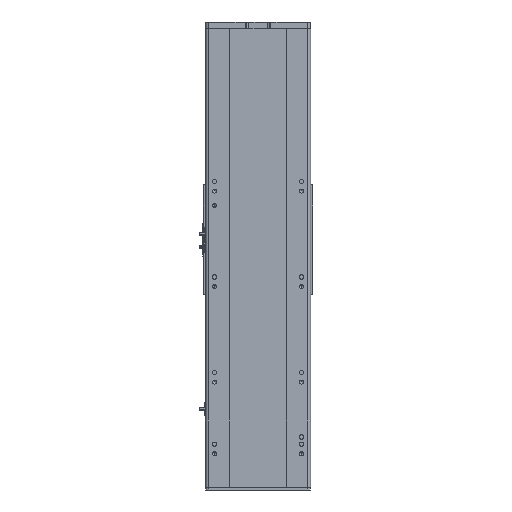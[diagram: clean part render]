
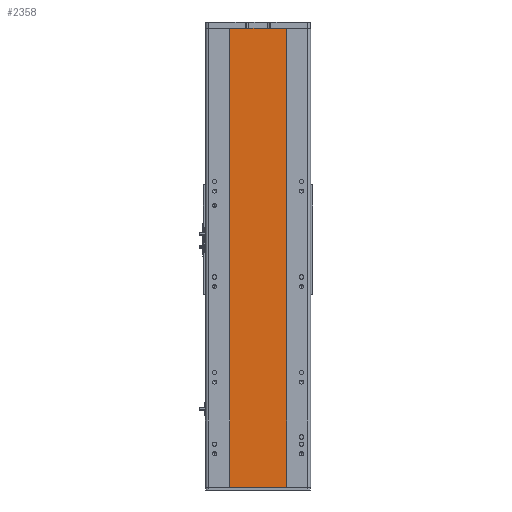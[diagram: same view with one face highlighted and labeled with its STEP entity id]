
A CAD part, front view. The second image highlights one B-rep face of the part: STEP entity #2358.
In plain terms, the highlighted planar face has unit normal (0, -1, 0).
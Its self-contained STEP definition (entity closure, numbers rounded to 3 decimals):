
#647 = CARTESIAN_POINT ( 'NONE',  ( -59., 1., 480.5 ) ) ;
#745 = EDGE_CURVE ( 'NONE', #2993, #4073, #27248, .T. ) ;
#2058 = CARTESIAN_POINT ( 'NONE',  ( -59., 1., 480.5 ) ) ;
#2358 = ADVANCED_FACE ( 'NONE', ( #24037 ), #27081, .F. ) ;
#2993 = VERTEX_POINT ( 'NONE', #9958 ) ;
#4073 = VERTEX_POINT ( 'NONE', #18089 ) ;
#4713 = DIRECTION ( 'NONE',  ( -1., 0., 0. ) ) ;
#4801 = CARTESIAN_POINT ( 'NONE',  ( -59., 1., 480.5 ) ) ;
#4818 = VECTOR ( 'NONE', #16840, 1000. ) ;
#7188 = CARTESIAN_POINT ( 'NONE',  ( -59., 1., 480.5 ) ) ;
#8130 = VECTOR ( 'NONE', #26447, 1000. ) ;
#8135 = CARTESIAN_POINT ( 'NONE',  ( 59., 1., 480.5 ) ) ;
#8503 = DIRECTION ( 'NONE',  ( 0., 0., -1. ) ) ;
#9958 = CARTESIAN_POINT ( 'NONE',  ( -59., 1., -480.5 ) ) ;
#10421 = EDGE_CURVE ( 'NONE', #19320, #30246, #23085, .T. ) ;
#11213 = LINE ( 'NONE', #4801, #25280 ) ;
#11912 = AXIS2_PLACEMENT_3D ( 'NONE', #7188, #32751, #4713 ) ;
#13262 = ORIENTED_EDGE ( 'NONE', *, *, #745, .T. ) ;
#14792 = ORIENTED_EDGE ( 'NONE', *, *, #15967, .F. ) ;
#15967 = EDGE_CURVE ( 'NONE', #30246, #4073, #22734, .T. ) ;
#16840 = DIRECTION ( 'NONE',  ( 1., 0., 0. ) ) ;
#17038 = EDGE_CURVE ( 'NONE', #19320, #2993, #11213, .T. ) ;
#17207 = CARTESIAN_POINT ( 'NONE',  ( 59., 1., 480.5 ) ) ;
#18089 = CARTESIAN_POINT ( 'NONE',  ( 59., 1., -480.5 ) ) ;
#19320 = VERTEX_POINT ( 'NONE', #2058 ) ;
#19538 = CARTESIAN_POINT ( 'NONE',  ( -59., 1., -480.5 ) ) ;
#20509 = VECTOR ( 'NONE', #8503, 1000. ) ;
#22734 = LINE ( 'NONE', #8135, #20509 ) ;
#23085 = LINE ( 'NONE', #647, #8130 ) ;
#24037 = FACE_OUTER_BOUND ( 'NONE', #24998, .T. ) ;
#24204 = DIRECTION ( 'NONE',  ( 0., 0., -1. ) ) ;
#24998 = EDGE_LOOP ( 'NONE', ( #13262, #14792, #34069, #31610 ) ) ;
#25280 = VECTOR ( 'NONE', #24204, 1000. ) ;
#26447 = DIRECTION ( 'NONE',  ( 1., 0., 0. ) ) ;
#27081 = PLANE ( 'NONE',  #11912 ) ;
#27248 = LINE ( 'NONE', #19538, #4818 ) ;
#30246 = VERTEX_POINT ( 'NONE', #17207 ) ;
#31610 = ORIENTED_EDGE ( 'NONE', *, *, #17038, .T. ) ;
#32751 = DIRECTION ( 'NONE',  ( 0., 1., 0. ) ) ;
#34069 = ORIENTED_EDGE ( 'NONE', *, *, #10421, .F. ) ;
